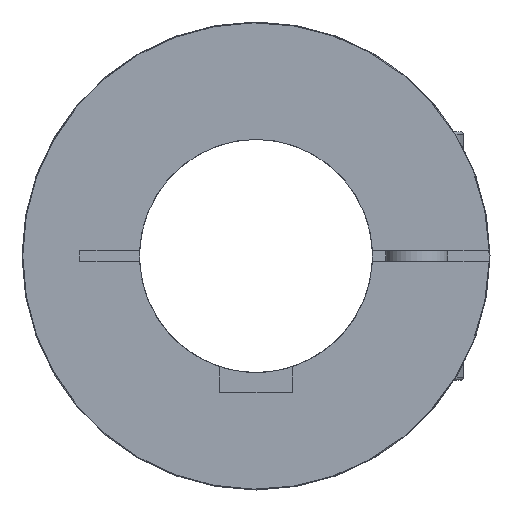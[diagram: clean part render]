
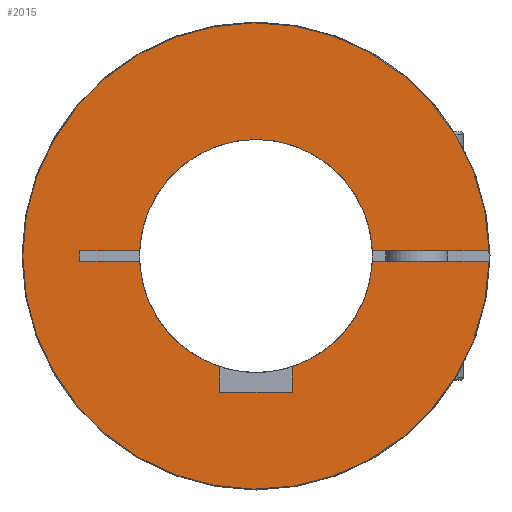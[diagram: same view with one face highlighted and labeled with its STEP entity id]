
A CAD part, left-side view. The second image highlights one B-rep face of the part: STEP entity #2015.
In plain terms, the highlighted planar face has unit normal (-1, 0, 0).
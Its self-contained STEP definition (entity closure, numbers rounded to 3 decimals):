
#73=PLANE('',#2239);
#153=LINE('',#3359,#259);
#156=LINE('',#3365,#262);
#157=LINE('',#3367,#263);
#167=LINE('',#3386,#273);
#170=LINE('',#3396,#276);
#173=LINE('',#3402,#279);
#174=LINE('',#3403,#280);
#175=LINE('',#3405,#281);
#259=VECTOR('',#2655,1.);
#262=VECTOR('',#2660,1.);
#263=VECTOR('',#2663,1.);
#273=VECTOR('',#2681,1000.);
#276=VECTOR('',#2690,1000.);
#279=VECTOR('',#2695,1000.);
#280=VECTOR('',#2696,1000.);
#281=VECTOR('',#2697,1000.);
#391=FACE_OUTER_BOUND('',#512,.T.);
#512=EDGE_LOOP('',(#1499,#1500,#1501,#1502,#1503,#1504,#1505,#1506,#1507,
#1508,#1509,#1510));
#726=CIRCLE('',#2223,22.5);
#728=CIRCLE('',#2225,22.5);
#729=CIRCLE('',#2227,22.5);
#733=CIRCLE('',#2240,45.);
#907=VERTEX_POINT('',#3332);
#908=VERTEX_POINT('',#3334);
#911=VERTEX_POINT('',#3340);
#912=VERTEX_POINT('',#3342);
#913=VERTEX_POINT('',#3346);
#914=VERTEX_POINT('',#3347);
#918=VERTEX_POINT('',#3357);
#920=VERTEX_POINT('',#3363);
#925=VERTEX_POINT('',#3385);
#929=VERTEX_POINT('',#3395);
#931=VERTEX_POINT('',#3401);
#932=VERTEX_POINT('',#3404);
#1141=EDGE_CURVE('',#908,#907,#726,.T.);
#1145=EDGE_CURVE('',#912,#911,#728,.T.);
#1147=EDGE_CURVE('',#913,#914,#729,.T.);
#1153=EDGE_CURVE('',#911,#918,#153,.T.);
#1156=EDGE_CURVE('',#918,#920,#156,.T.);
#1157=EDGE_CURVE('',#920,#908,#157,.T.);
#1167=EDGE_CURVE('',#912,#925,#167,.T.);
#1172=EDGE_CURVE('',#929,#913,#170,.T.);
#1175=EDGE_CURVE('',#931,#907,#173,.T.);
#1176=EDGE_CURVE('',#929,#931,#174,.T.);
#1177=EDGE_CURVE('',#932,#914,#175,.T.);
#1178=EDGE_CURVE('',#932,#925,#733,.T.);
#1499=ORIENTED_EDGE('',*,*,#1145,.T.);
#1500=ORIENTED_EDGE('',*,*,#1153,.T.);
#1501=ORIENTED_EDGE('',*,*,#1156,.T.);
#1502=ORIENTED_EDGE('',*,*,#1157,.T.);
#1503=ORIENTED_EDGE('',*,*,#1141,.T.);
#1504=ORIENTED_EDGE('',*,*,#1175,.F.);
#1505=ORIENTED_EDGE('',*,*,#1176,.F.);
#1506=ORIENTED_EDGE('',*,*,#1172,.T.);
#1507=ORIENTED_EDGE('',*,*,#1147,.T.);
#1508=ORIENTED_EDGE('',*,*,#1177,.F.);
#1509=ORIENTED_EDGE('',*,*,#1178,.T.);
#1510=ORIENTED_EDGE('',*,*,#1167,.F.);
#2015=ADVANCED_FACE('',(#391),#73,.T.);
#2223=AXIS2_PLACEMENT_3D('',#3335,#2634,#2635);
#2225=AXIS2_PLACEMENT_3D('',#3343,#2640,#2641);
#2227=AXIS2_PLACEMENT_3D('',#3348,#2645,#2646);
#2239=AXIS2_PLACEMENT_3D('',#3400,#2693,#2694);
#2240=AXIS2_PLACEMENT_3D('',#3406,#2698,#2699);
#2634=DIRECTION('center_axis',(1.,0.,0.));
#2635=DIRECTION('ref_axis',(0.,0.,-1.));
#2640=DIRECTION('center_axis',(1.,0.,0.));
#2641=DIRECTION('ref_axis',(0.,0.,-1.));
#2645=DIRECTION('center_axis',(1.,0.,0.));
#2646=DIRECTION('ref_axis',(0.,0.,-1.));
#2655=DIRECTION('',(0.,0.,-1.));
#2660=DIRECTION('',(0.,1.,0.));
#2663=DIRECTION('',(0.,0.,1.));
#2681=DIRECTION('',(0.,-1.,0.));
#2690=DIRECTION('',(0.,-1.,0.));
#2693=DIRECTION('center_axis',(-1.,0.,0.));
#2694=DIRECTION('ref_axis',(0.,1.,0.));
#2695=DIRECTION('',(0.,-1.,0.));
#2696=DIRECTION('',(0.,0.,-1.));
#2697=DIRECTION('',(0.,1.,0.));
#2698=DIRECTION('center_axis',(-1.,0.,0.));
#2699=DIRECTION('ref_axis',(0.,1.,0.));
#3332=CARTESIAN_POINT('',(0.,22.478,-1.));
#3334=CARTESIAN_POINT('',(0.,7.,-21.383));
#3335=CARTESIAN_POINT('Origin',(0.,0.,0.));
#3340=CARTESIAN_POINT('',(0.,-7.,-21.383));
#3342=CARTESIAN_POINT('',(0.,-22.478,-1.));
#3343=CARTESIAN_POINT('Origin',(0.,0.,0.));
#3346=CARTESIAN_POINT('',(0.,22.478,1.));
#3347=CARTESIAN_POINT('',(0.,-22.478,1.));
#3348=CARTESIAN_POINT('Origin',(0.,0.,0.));
#3357=CARTESIAN_POINT('',(0.,-7.,-26.3));
#3359=CARTESIAN_POINT('',(0.,-7.,-12.075));
#3363=CARTESIAN_POINT('',(0.,7.,-26.3));
#3365=CARTESIAN_POINT('',(0.,0.,-26.3));
#3367=CARTESIAN_POINT('',(0.,7.,-12.075));
#3385=CARTESIAN_POINT('',(0.,-44.989,-1.));
#3386=CARTESIAN_POINT('',(0.,0.,-1.));
#3395=CARTESIAN_POINT('',(0.,34.,1.));
#3396=CARTESIAN_POINT('',(0.,34.,1.));
#3400=CARTESIAN_POINT('Origin',(0.,0.,-11.));
#3401=CARTESIAN_POINT('',(0.,34.,-1.));
#3402=CARTESIAN_POINT('',(0.,34.,-1.));
#3403=CARTESIAN_POINT('',(0.,34.,1.));
#3404=CARTESIAN_POINT('',(0.,-44.989,1.));
#3405=CARTESIAN_POINT('',(0.,0.,1.));
#3406=CARTESIAN_POINT('Origin',(0.,0.,0.));
